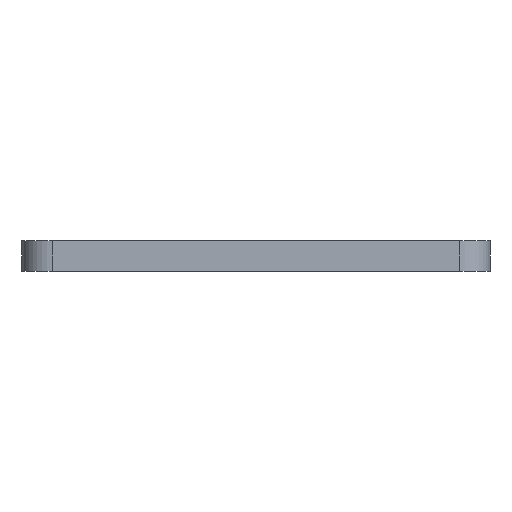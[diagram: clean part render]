
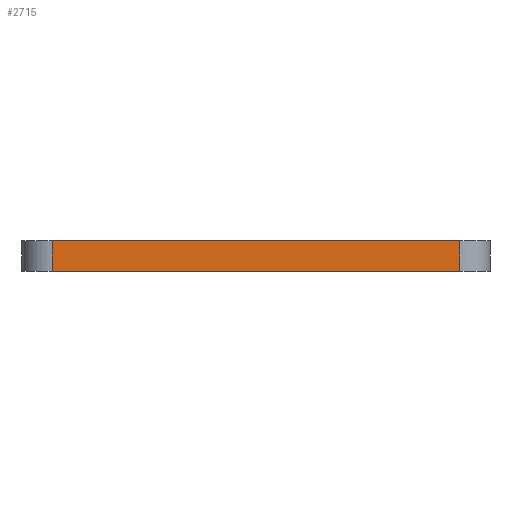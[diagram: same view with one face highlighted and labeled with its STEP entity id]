
A CAD part, left-side view. The second image highlights one B-rep face of the part: STEP entity #2715.
In plain terms, the highlighted planar face has unit normal (-1, 0, 0).
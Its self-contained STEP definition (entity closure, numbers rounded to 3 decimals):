
#122=CARTESIAN_POINT('Vertex',(-116.,-67.5,0.)) ;
#125=CARTESIAN_POINT('Line Origine',(-116.,0.,0.)) ;
#129=CARTESIAN_POINT('Vertex',(-116.,67.5,0.)) ;
#581=CARTESIAN_POINT('Vertex',(-116.,67.5,10.)) ;
#591=CARTESIAN_POINT('Line Origine',(-116.,67.5,5.)) ;
#2684=CARTESIAN_POINT('Vertex',(-116.,-67.5,10.)) ;
#2687=CARTESIAN_POINT('Line Origine',(-116.,-67.5,5.)) ;
#2699=CARTESIAN_POINT('Axis2P3D Location',(-116.,77.5,0.)) ;
#2704=CARTESIAN_POINT('Line Origine',(-116.,0.,10.)) ;
#126=DIRECTION('Vector Direction',(0.,-1.,0.)) ;
#592=DIRECTION('Vector Direction',(0.,0.,1.)) ;
#2688=DIRECTION('Vector Direction',(0.,0.,1.)) ;
#2700=DIRECTION('Axis2P3D Direction',(-1.,0.,0.)) ;
#2701=DIRECTION('Axis2P3D XDirection',(0.,-1.,0.)) ;
#2705=DIRECTION('Vector Direction',(0.,-1.,0.)) ;
#2702=AXIS2_PLACEMENT_3D('Plane Axis2P3D',#2699,#2700,#2701) ;
#2710=ORIENTED_EDGE('',*,*,#2708,.F.) ;
#2711=ORIENTED_EDGE('',*,*,#595,.F.) ;
#2712=ORIENTED_EDGE('',*,*,#131,.T.) ;
#2713=ORIENTED_EDGE('',*,*,#2691,.T.) ;
#127=VECTOR('Line Direction',#126,1.) ;
#593=VECTOR('Line Direction',#592,1.) ;
#2689=VECTOR('Line Direction',#2688,1.) ;
#2706=VECTOR('Line Direction',#2705,1.) ;
#2715=ADVANCED_FACE('\X2\96F64EF651E04F554F53\X0\',(#2714),#2703,.T.) ;
#131=EDGE_CURVE('',#130,#123,#128,.T.) ;
#595=EDGE_CURVE('',#130,#582,#594,.T.) ;
#2691=EDGE_CURVE('',#123,#2685,#2690,.T.) ;
#2708=EDGE_CURVE('',#582,#2685,#2707,.T.) ;
#2709=EDGE_LOOP('',(#2710,#2711,#2712,#2713)) ;
#2714=FACE_OUTER_BOUND('',#2709,.T.) ;
#128=LINE('Line',#125,#127) ;
#594=LINE('Line',#591,#593) ;
#2690=LINE('Line',#2687,#2689) ;
#2707=LINE('Line',#2704,#2706) ;
#2703=PLANE('Plane',#2702) ;
#123=VERTEX_POINT('',#122) ;
#130=VERTEX_POINT('',#129) ;
#582=VERTEX_POINT('',#581) ;
#2685=VERTEX_POINT('',#2684) ;
